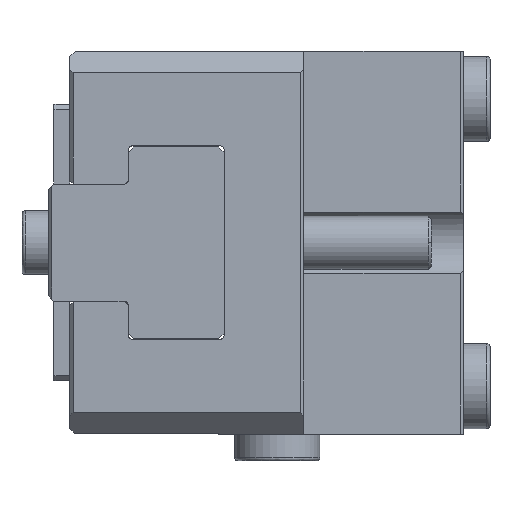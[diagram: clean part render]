
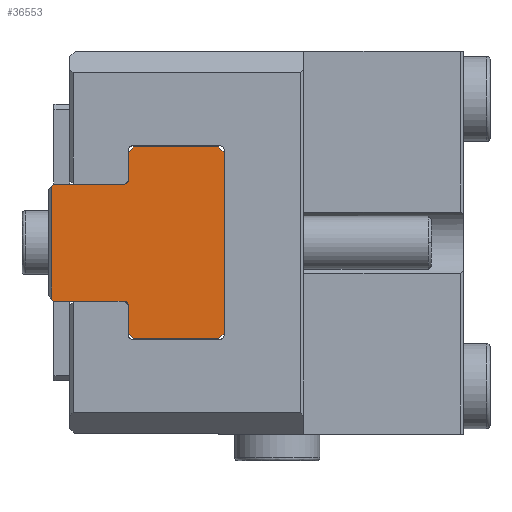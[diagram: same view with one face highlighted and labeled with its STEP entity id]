
A CAD part, left-side view. The second image highlights one B-rep face of the part: STEP entity #36553.
In plain terms, the highlighted planar face has unit normal (-1, 0, 0).
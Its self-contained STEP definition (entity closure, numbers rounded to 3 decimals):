
#337 = EDGE_CURVE ( 'NONE', #17151, #29501, #49670, .T. ) ;
#1209 = CARTESIAN_POINT ( 'NONE',  ( 0., 9.4, 9. ) ) ;
#2755 = EDGE_CURVE ( 'NONE', #17151, #39735, #29879, .T. ) ;
#2757 = CARTESIAN_POINT ( 'NONE',  ( 0., 9., -5.9 ) ) ;
#2851 = CIRCLE ( 'NONE', #5364, 0.4 ) ;
#3729 = ORIENTED_EDGE ( 'NONE', *, *, #20519, .T. ) ;
#4071 = VECTOR ( 'NONE', #32311, 1000. ) ;
#4262 = CARTESIAN_POINT ( 'NONE',  ( 0., 8.5, 9. ) ) ;
#4439 = CARTESIAN_POINT ( 'NONE',  ( 0., 8.5, -9. ) ) ;
#5284 = ORIENTED_EDGE ( 'NONE', *, *, #50787, .F. ) ;
#5364 = AXIS2_PLACEMENT_3D ( 'NONE', #6767, #35139, #10849 ) ;
#5840 = CARTESIAN_POINT ( 'NONE',  ( 0., 16., -5.5 ) ) ;
#6764 = ORIENTED_EDGE ( 'NONE', *, *, #14764, .F. ) ;
#6767 = CARTESIAN_POINT ( 'NONE',  ( 0., 9.4, 5.9 ) ) ;
#7103 = VECTOR ( 'NONE', #52573, 1000. ) ;
#7530 = CARTESIAN_POINT ( 'NONE',  ( 0., 16., 5.5 ) ) ;
#7662 = LINE ( 'NONE', #35633, #49554 ) ;
#7781 = VECTOR ( 'NONE', #12803, 1000. ) ;
#7820 = CARTESIAN_POINT ( 'NONE',  ( 0., 0., -8.5 ) ) ;
#8757 = VECTOR ( 'NONE', #18420, 1000. ) ;
#9018 = ORIENTED_EDGE ( 'NONE', *, *, #24718, .F. ) ;
#9998 = DIRECTION ( 'NONE',  ( 0., -1., 0. ) ) ;
#10581 = CARTESIAN_POINT ( 'NONE',  ( 0., 0.5, 9. ) ) ;
#10826 = VERTEX_POINT ( 'NONE', #5840 ) ;
#10849 = DIRECTION ( 'NONE',  ( 0., 0., 1. ) ) ;
#11658 = EDGE_CURVE ( 'NONE', #18817, #10826, #13161, .T. ) ;
#11702 = AXIS2_PLACEMENT_3D ( 'NONE', #42341, #18071, #46420 ) ;
#11735 = VECTOR ( 'NONE', #9998, 1000. ) ;
#11738 = DIRECTION ( 'NONE',  ( 0., 0., 1. ) ) ;
#11873 = FACE_OUTER_BOUND ( 'NONE', #22646, .T. ) ;
#12307 = ORIENTED_EDGE ( 'NONE', *, *, #16955, .T. ) ;
#12803 = DIRECTION ( 'NONE',  ( 0., -1., 0. ) ) ;
#13161 = LINE ( 'NONE', #39247, #33462 ) ;
#14086 = CARTESIAN_POINT ( 'NONE',  ( 0., 9.4, 5.5 ) ) ;
#14216 = VECTOR ( 'NONE', #18035, 1000. ) ;
#14220 = ORIENTED_EDGE ( 'NONE', *, *, #337, .F. ) ;
#14764 = EDGE_CURVE ( 'NONE', #48703, #16218, #42819, .T. ) ;
#15225 = EDGE_CURVE ( 'NONE', #46063, #16218, #2851, .T. ) ;
#15494 = LINE ( 'NONE', #34152, #14216 ) ;
#15867 = VECTOR ( 'NONE', #22174, 1000. ) ;
#16218 = VERTEX_POINT ( 'NONE', #28264 ) ;
#16955 = EDGE_CURVE ( 'NONE', #26991, #21090, #18627, .T. ) ;
#17151 = VERTEX_POINT ( 'NONE', #4262 ) ;
#17285 = VERTEX_POINT ( 'NONE', #38129 ) ;
#17348 = VECTOR ( 'NONE', #47054, 1000. ) ;
#18035 = DIRECTION ( 'NONE',  ( 0., 0.707, 0.707 ) ) ;
#18071 = DIRECTION ( 'NONE',  ( 1., 0., 0. ) ) ;
#18420 = DIRECTION ( 'NONE',  ( 0., 1., 0. ) ) ;
#18627 = LINE ( 'NONE', #26835, #17348 ) ;
#18651 = CARTESIAN_POINT ( 'NONE',  ( 0., 9., -5.9 ) ) ;
#18817 = VERTEX_POINT ( 'NONE', #50282 ) ;
#19486 = EDGE_CURVE ( 'NONE', #48703, #17285, #7662, .T. ) ;
#19930 = CARTESIAN_POINT ( 'NONE',  ( 0., 8.5, 9. ) ) ;
#20293 = ORIENTED_EDGE ( 'NONE', *, *, #47818, .F. ) ;
#20519 = EDGE_CURVE ( 'NONE', #52300, #28396, #26647, .T. ) ;
#20625 = LINE ( 'NONE', #29382, #51732 ) ;
#21090 = VERTEX_POINT ( 'NONE', #4439 ) ;
#21161 = DIRECTION ( 'NONE',  ( 1., 0., 0. ) ) ;
#21191 = LINE ( 'NONE', #2757, #30712 ) ;
#22174 = DIRECTION ( 'NONE',  ( 0., 0., 1. ) ) ;
#22646 = EDGE_LOOP ( 'NONE', ( #9018, #28994, #5284, #39306, #42585, #12307, #26834, #51207, #3729, #30538, #14220, #50143, #20293, #27409, #6764, #29485 ) ) ;
#23778 = AXIS2_PLACEMENT_3D ( 'NONE', #45447, #21161, #49533 ) ;
#24718 = EDGE_CURVE ( 'NONE', #18817, #17285, #20625, .T. ) ;
#25289 = DIRECTION ( 'NONE',  ( 0., 0., 1. ) ) ;
#25411 = EDGE_CURVE ( 'NONE', #32258, #52300, #37733, .T. ) ;
#26019 = EDGE_CURVE ( 'NONE', #28396, #29501, #15494, .T. ) ;
#26146 = EDGE_CURVE ( 'NONE', #26991, #38977, #21191, .T. ) ;
#26647 = LINE ( 'NONE', #31064, #15867 ) ;
#26834 = ORIENTED_EDGE ( 'NONE', *, *, #29679, .F. ) ;
#26835 = CARTESIAN_POINT ( 'NONE',  ( 0., 9., -8.5 ) ) ;
#26991 = VERTEX_POINT ( 'NONE', #28531 ) ;
#27409 = ORIENTED_EDGE ( 'NONE', *, *, #15225, .T. ) ;
#27668 = DIRECTION ( 'NONE',  ( 0., 0.707, -0.707 ) ) ;
#27821 = CARTESIAN_POINT ( 'NONE',  ( 0., 0., 8.5 ) ) ;
#28264 = CARTESIAN_POINT ( 'NONE',  ( 0., 9.4, 5.5 ) ) ;
#28296 = CARTESIAN_POINT ( 'NONE',  ( 0., 9.4, -9. ) ) ;
#28396 = VERTEX_POINT ( 'NONE', #27821 ) ;
#28531 = CARTESIAN_POINT ( 'NONE',  ( 0., 9., -8.5 ) ) ;
#28994 = ORIENTED_EDGE ( 'NONE', *, *, #11658, .T. ) ;
#29382 = CARTESIAN_POINT ( 'NONE',  ( 0., 16.2, -5.9 ) ) ;
#29485 = ORIENTED_EDGE ( 'NONE', *, *, #19486, .T. ) ;
#29501 = VERTEX_POINT ( 'NONE', #10581 ) ;
#29679 = EDGE_CURVE ( 'NONE', #32258, #21090, #38187, .T. ) ;
#29879 = LINE ( 'NONE', #19930, #48891 ) ;
#30359 = LINE ( 'NONE', #42511, #8757 ) ;
#30464 = CARTESIAN_POINT ( 'NONE',  ( 0., 9., 8.5 ) ) ;
#30538 = ORIENTED_EDGE ( 'NONE', *, *, #26019, .T. ) ;
#30712 = VECTOR ( 'NONE', #47450, 1000. ) ;
#31064 = CARTESIAN_POINT ( 'NONE',  ( 0., 0., 8.5 ) ) ;
#31599 = CARTESIAN_POINT ( 'NONE',  ( 0., 9.4, -5.5 ) ) ;
#32258 = VERTEX_POINT ( 'NONE', #39542 ) ;
#32311 = DIRECTION ( 'NONE',  ( 0., -0.707, 0.707 ) ) ;
#32490 = CARTESIAN_POINT ( 'NONE',  ( 0., 9., -5.9 ) ) ;
#33462 = VECTOR ( 'NONE', #43323, 1000. ) ;
#34152 = CARTESIAN_POINT ( 'NONE',  ( 0., 0., 8.5 ) ) ;
#34458 = VERTEX_POINT ( 'NONE', #31599 ) ;
#35139 = DIRECTION ( 'NONE',  ( 1., 0., 0. ) ) ;
#35633 = CARTESIAN_POINT ( 'NONE',  ( 0., 16., 5.5 ) ) ;
#36553 = ADVANCED_FACE ( 'NONE', ( #11873 ), #38266, .F. ) ;
#36800 = CIRCLE ( 'NONE', #23778, 0.4 ) ;
#37733 = LINE ( 'NONE', #7820, #4071 ) ;
#37927 = CARTESIAN_POINT ( 'NONE',  ( 0., 0., -8.5 ) ) ;
#38129 = CARTESIAN_POINT ( 'NONE',  ( 0., 16.2, 5.3 ) ) ;
#38187 = LINE ( 'NONE', #28296, #7103 ) ;
#38266 = PLANE ( 'NONE',  #11702 ) ;
#38977 = VERTEX_POINT ( 'NONE', #18651 ) ;
#39247 = CARTESIAN_POINT ( 'NONE',  ( 0., 16.5, -5. ) ) ;
#39306 = ORIENTED_EDGE ( 'NONE', *, *, #47505, .T. ) ;
#39542 = CARTESIAN_POINT ( 'NONE',  ( 0., 0.5, -9. ) ) ;
#39735 = VERTEX_POINT ( 'NONE', #30464 ) ;
#39979 = VECTOR ( 'NONE', #11738, 1000. ) ;
#41235 = LINE ( 'NONE', #32490, #39979 ) ;
#41331 = CARTESIAN_POINT ( 'NONE',  ( 0., 9., 5.9 ) ) ;
#42341 = CARTESIAN_POINT ( 'NONE',  ( 0., 9.4, -5.9 ) ) ;
#42511 = CARTESIAN_POINT ( 'NONE',  ( 0., 9.4, -5.5 ) ) ;
#42585 = ORIENTED_EDGE ( 'NONE', *, *, #26146, .F. ) ;
#42819 = LINE ( 'NONE', #14086, #11735 ) ;
#43323 = DIRECTION ( 'NONE',  ( 0., -0.707, -0.707 ) ) ;
#44202 = DIRECTION ( 'NONE',  ( 0., 0.707, -0.707 ) ) ;
#45447 = CARTESIAN_POINT ( 'NONE',  ( 0., 9.4, -5.9 ) ) ;
#46063 = VERTEX_POINT ( 'NONE', #41331 ) ;
#46420 = DIRECTION ( 'NONE',  ( 0., 0., -1. ) ) ;
#47054 = DIRECTION ( 'NONE',  ( 0., -0.707, -0.707 ) ) ;
#47450 = DIRECTION ( 'NONE',  ( 0., 0., 1. ) ) ;
#47505 = EDGE_CURVE ( 'NONE', #34458, #38977, #36800, .T. ) ;
#47818 = EDGE_CURVE ( 'NONE', #46063, #39735, #41235, .T. ) ;
#48703 = VERTEX_POINT ( 'NONE', #7530 ) ;
#48891 = VECTOR ( 'NONE', #44202, 1000. ) ;
#49533 = DIRECTION ( 'NONE',  ( 0., 0., 1. ) ) ;
#49554 = VECTOR ( 'NONE', #27668, 1000. ) ;
#49670 = LINE ( 'NONE', #1209, #7781 ) ;
#50143 = ORIENTED_EDGE ( 'NONE', *, *, #2755, .T. ) ;
#50282 = CARTESIAN_POINT ( 'NONE',  ( 0., 16.2, -5.3 ) ) ;
#50787 = EDGE_CURVE ( 'NONE', #34458, #10826, #30359, .T. ) ;
#51207 = ORIENTED_EDGE ( 'NONE', *, *, #25411, .T. ) ;
#51732 = VECTOR ( 'NONE', #25289, 1000. ) ;
#52300 = VERTEX_POINT ( 'NONE', #37927 ) ;
#52573 = DIRECTION ( 'NONE',  ( 0., 1., 0. ) ) ;
